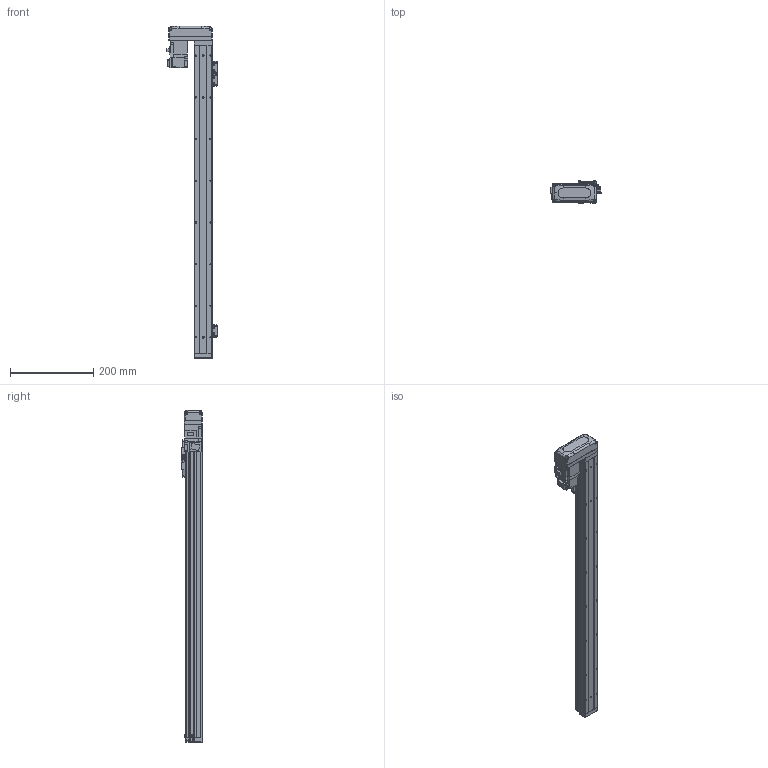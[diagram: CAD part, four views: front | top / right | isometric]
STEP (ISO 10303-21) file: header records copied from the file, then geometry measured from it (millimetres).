
FILE_DESCRIPTION (( 'STEP AP203' ), '1' );
FILE_NAME ('GTH4-600-BR-M05-C4.step', '2023-08-28T00:44:43', ( '微软用户' ), ( '微软中国' ), 'SwSTEP 2.0', 'SolidWorks 2020', '' );
FILE_SCHEMA (( 'CONFIG_CONTROL_DESIGN' ));
Length unit declared in the file: millimetre
Products named in the file (19): GBT 70.1-M3℅6; GBT 70.3-M3℅6; BTH40-006; GBT96.1-2002 3×0.8; BTH40-027-1; BTH-M3X5X6; BTH40-022; BTH50-026; GBT70.1-2000 M3×16; GBT 70.1-M2.5×6; GTH4-600-BR-M05-C4; BTH50-028; BTH40-004; BTH50-023; BTH40-013; BTH40-001-50_BTH40-001-600; BTH50-024; HG-KR13; BTH40-003
Assembly tree (47 placements, depth 2):
  GTH4-600-BR-M05-C4
    BTH40-001-50_BTH40-001-600
    BTH40-003
    BTH40-006
    BTH-M3X5X6  x8
    GBT70.1-2000 M3×16  x4
    BTH50-028  x2
    BTH50-023  x3
    BTH50-024  x3
    GBT 70.1-M3℅6  x6
    GBT96.1-2002 3×0.8  x6
    BTH40-022
    GBT 70.1-M2.5×6  x2
    BTH40-004
    BTH40-013
    HG-KR13
    GBT 70.3-M3℅6  x4
    BTH40-027-1
    BTH50-026
Bounding box: 120 x 52 x 796 mm (x, y, z)
Volume: 1425508.6 mm3; surface area: 246730.4 mm2
Topology: 49 solids, 49 shells, 1987 faces, 4671 edges, 2874 vertices
Faces by surface type: plane 1052, cylinder 499, cone 270, torus 128, bspline 34, sphere 4
Entity records: 39839 total; most frequent: CARTESIAN_POINT 7618, DIRECTION 6252, ORIENTED_EDGE 5988, EDGE_CURVE 2994, AXIS2_PLACEMENT_3D 2143, VECTOR 1966, LINE 1966, VERTEX_POINT 1861
